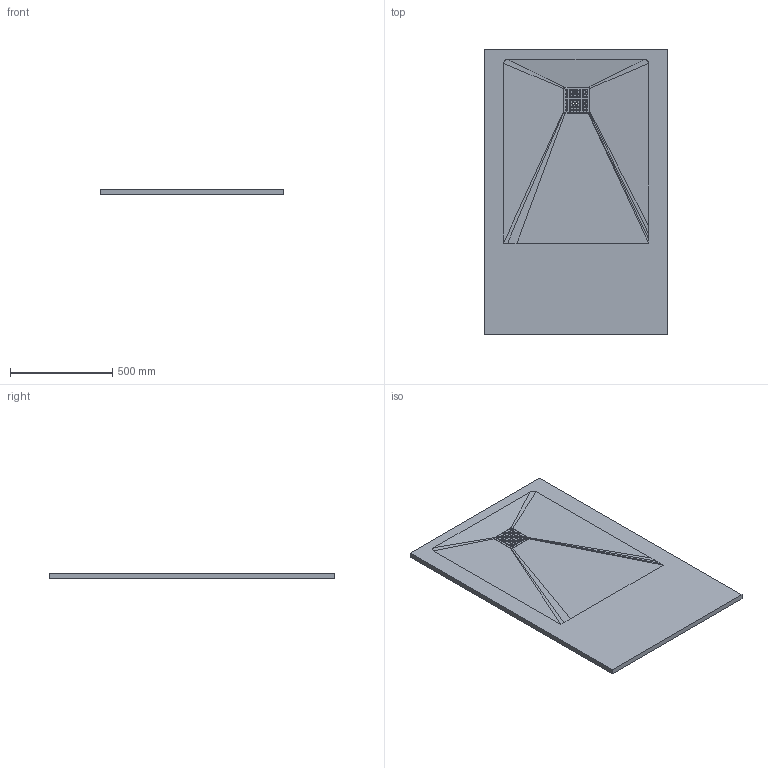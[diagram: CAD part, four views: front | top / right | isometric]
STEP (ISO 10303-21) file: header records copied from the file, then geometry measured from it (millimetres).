
FILE_DESCRIPTION(/* description */ (''),/* implementation_level */ '2;1');
FILE_NAME(/* name */ 'ART301~1',/* time_stamp */ '2024-09-10T11:47:20+02:00',/* author */ (''),/* organization */ (''),/* preprocessor_version */ 'ST-DEVELOPER v16.5',/* originating_system */ '',/* authorisation */ '');
FILE_SCHEMA (('CONFIG_CONTROL_DESIGN'));
Length unit declared in the file: centimetre
Products named in the file (1): Document
Bounding box: 900 x 1400 x 25 mm (x, y, z)
Surface area: 2653172.3 mm2
Topology: 1 solids, 2 shells, 342 faces, 905 edges, 567 vertices
Faces by surface type: bspline 226, cylinder 104, plane 12
Entity records: 16375 total; most frequent: CARTESIAN_POINT 11417, ORIENTED_EDGE 1800, EDGE_CURVE 905, VERTEX_POINT 567, EDGE_LOOP 442, ADVANCED_FACE 342, FACE_OUTER_BOUND 342, DIRECTION 122
